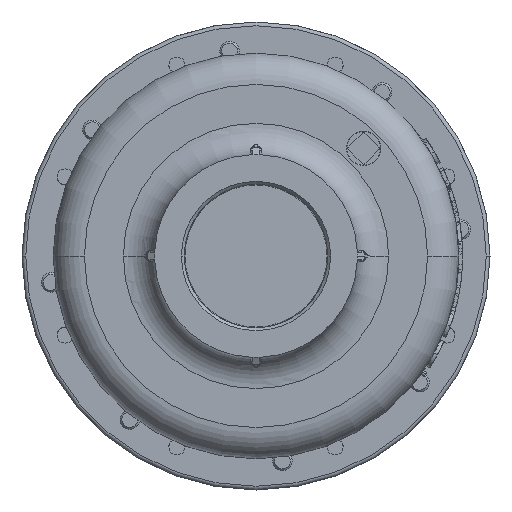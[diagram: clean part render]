
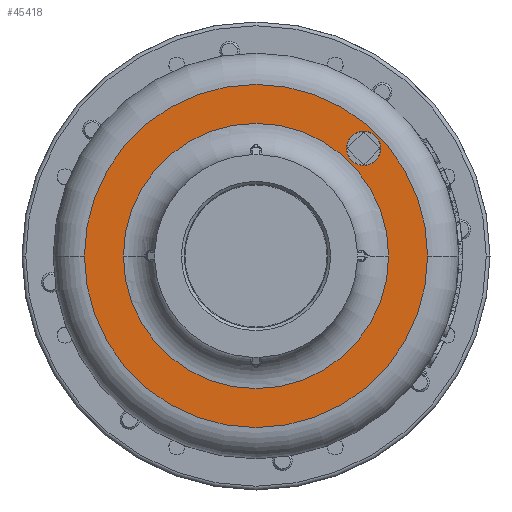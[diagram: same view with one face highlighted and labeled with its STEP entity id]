
A CAD part, front view. The second image highlights one B-rep face of the part: STEP entity #45418.
In plain terms, the highlighted planar face has unit normal (0, -1, 0).
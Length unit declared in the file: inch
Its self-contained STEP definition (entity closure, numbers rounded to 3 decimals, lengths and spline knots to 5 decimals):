
#498 = DIRECTION ( 'NONE',  ( 0., 0., 1. ) ) ;
#511 = DIRECTION ( 'NONE',  ( 0., 1., 0. ) ) ;
#555 = CARTESIAN_POINT ( 'NONE',  ( 0., -8.44, 0. ) ) ;
#1650 = CARTESIAN_POINT ( 'NONE',  ( 0., -8.44, 0. ) ) ;
#4377 = CARTESIAN_POINT ( 'NONE',  ( 0., -8.44, -2.75 ) ) ;
#5500 = DIRECTION ( 'NONE',  ( 0., 0., 1. ) ) ;
#6131 = ORIENTED_EDGE ( 'NONE', *, *, #38211, .F. ) ;
#6919 = EDGE_LOOP ( 'NONE', ( #6131, #18721 ) ) ;
#6953 = CARTESIAN_POINT ( 'NONE',  ( 0., -8.44, 2.125 ) ) ;
#7156 = CARTESIAN_POINT ( 'NONE',  ( 2.75, -8.44, 0. ) ) ;
#8624 = ORIENTED_EDGE ( 'NONE', *, *, #49219, .T. ) ;
#9374 = ORIENTED_EDGE ( 'NONE', *, *, #30511, .F. ) ;
#13184 = FACE_BOUND ( 'NONE', #6919, .T. ) ;
#13736 = DIRECTION ( 'NONE',  ( 0., 0., -1. ) ) ;
#14451 = VERTEX_POINT ( 'NONE', #41567 ) ;
#14960 = PLANE ( 'NONE',  #36278 ) ;
#15162 = CARTESIAN_POINT ( 'NONE',  ( -1.72534, -8.44, 1.72534 ) ) ;
#15633 = FACE_OUTER_BOUND ( 'NONE', #38120, .T. ) ;
#16009 = AXIS2_PLACEMENT_3D ( 'NONE', #19506, #19496, #19399 ) ;
#16028 = CIRCLE ( 'NONE', #17027, 2.125 ) ;
#17027 = AXIS2_PLACEMENT_3D ( 'NONE', #555, #511, #498 ) ;
#18721 = ORIENTED_EDGE ( 'NONE', *, *, #25761, .F. ) ;
#18745 = AXIS2_PLACEMENT_3D ( 'NONE', #24510, #24503, #24354 ) ;
#19055 = AXIS2_PLACEMENT_3D ( 'NONE', #32023, #31934, #31827 ) ;
#19399 = DIRECTION ( 'NONE',  ( 0., 0., 1. ) ) ;
#19496 = DIRECTION ( 'NONE',  ( 0., 1., 0. ) ) ;
#19506 = CARTESIAN_POINT ( 'NONE',  ( 0., -8.44, 0. ) ) ;
#19664 = ORIENTED_EDGE ( 'NONE', *, *, #36952, .F. ) ;
#19690 = CARTESIAN_POINT ( 'NONE',  ( 0., -8.44, 2.75 ) ) ;
#21697 = CIRCLE ( 'NONE', #29835, 0.275 ) ;
#23282 = VERTEX_POINT ( 'NONE', #6953 ) ;
#24354 = DIRECTION ( 'NONE',  ( 0., 0., -1. ) ) ;
#24466 = CIRCLE ( 'NONE', #38966, 2.125 ) ;
#24503 = DIRECTION ( 'NONE',  ( 0., -1., 0. ) ) ;
#24510 = CARTESIAN_POINT ( 'NONE',  ( -1.72534, -8.44, 1.72534 ) ) ;
#25641 = EDGE_CURVE ( 'NONE', #23282, #40284, #16028, .T. ) ;
#25761 = EDGE_CURVE ( 'NONE', #48633, #14451, #21697, .T. ) ;
#25806 = FACE_BOUND ( 'NONE', #31466, .T. ) ;
#26470 = DIRECTION ( 'NONE',  ( 0., 0., 1. ) ) ;
#26516 = CIRCLE ( 'NONE', #18745, 0.275 ) ;
#27650 = DIRECTION ( 'NONE',  ( 0., -1., 0. ) ) ;
#28465 = DIRECTION ( 'NONE',  ( 0., 1., 0. ) ) ;
#29835 = AXIS2_PLACEMENT_3D ( 'NONE', #15162, #27650, #13736 ) ;
#30511 = EDGE_CURVE ( 'NONE', #41018, #45154, #32537, .T. ) ;
#31466 = EDGE_LOOP ( 'NONE', ( #39730, #8624 ) ) ;
#31827 = DIRECTION ( 'NONE',  ( 0., 0., 1. ) ) ;
#31934 = DIRECTION ( 'NONE',  ( 0., 1., 0. ) ) ;
#32023 = CARTESIAN_POINT ( 'NONE',  ( 0., -8.44, 0. ) ) ;
#32537 = CIRCLE ( 'NONE', #16009, 2.75 ) ;
#35595 = CARTESIAN_POINT ( 'NONE',  ( 0., -8.44, -2.125 ) ) ;
#36278 = AXIS2_PLACEMENT_3D ( 'NONE', #7156, #49417, #26470 ) ;
#36952 = EDGE_CURVE ( 'NONE', #45154, #41018, #43431, .T. ) ;
#38120 = EDGE_LOOP ( 'NONE', ( #19664, #9374 ) ) ;
#38211 = EDGE_CURVE ( 'NONE', #14451, #48633, #26516, .T. ) ;
#38966 = AXIS2_PLACEMENT_3D ( 'NONE', #1650, #28465, #5500 ) ;
#39730 = ORIENTED_EDGE ( 'NONE', *, *, #25641, .T. ) ;
#40284 = VERTEX_POINT ( 'NONE', #35595 ) ;
#41018 = VERTEX_POINT ( 'NONE', #4377 ) ;
#41567 = CARTESIAN_POINT ( 'NONE',  ( -1.72534, -8.44, 1.45034 ) ) ;
#43431 = CIRCLE ( 'NONE', #19055, 2.75 ) ;
#44034 = CARTESIAN_POINT ( 'NONE',  ( -1.72534, -8.44, 2.00034 ) ) ;
#45154 = VERTEX_POINT ( 'NONE', #19690 ) ;
#45418 = ADVANCED_FACE ( 'NONE', ( #13184, #15633, #25806 ), #14960, .F. ) ;
#48633 = VERTEX_POINT ( 'NONE', #44034 ) ;
#49219 = EDGE_CURVE ( 'NONE', #40284, #23282, #24466, .T. ) ;
#49417 = DIRECTION ( 'NONE',  ( 0., 1., 0. ) ) ;
